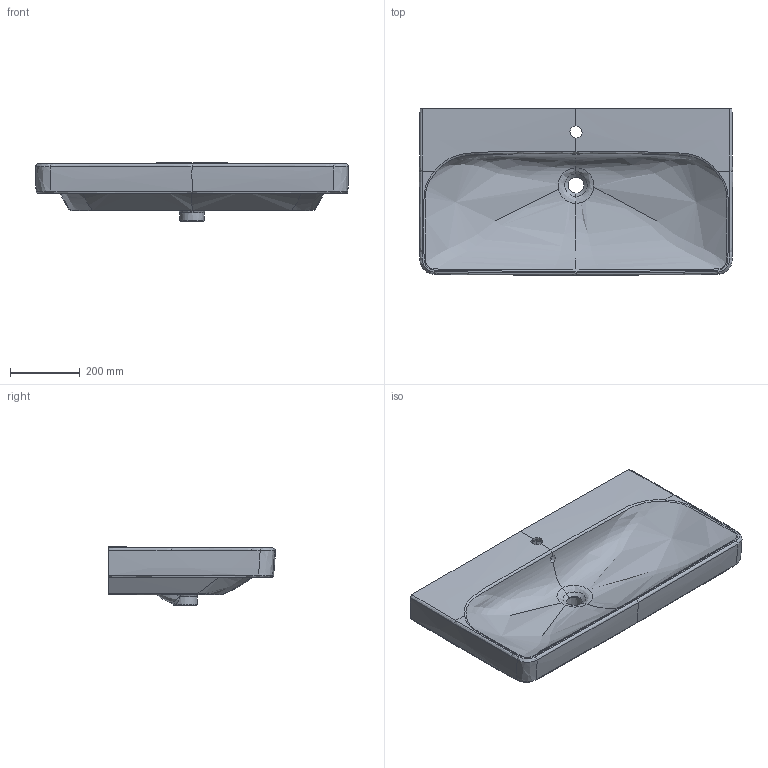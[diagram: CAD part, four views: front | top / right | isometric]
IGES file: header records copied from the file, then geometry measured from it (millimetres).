
Global section: file name: 500251; native system: Autodesk Inventor 2018; preprocessor: unknown; author: JANAN; date: 20200430.091838; units: millimetre
Bounding box: 899.82 x 479.74 x 168 mm (x, y, z)
Volume: 21443318.4 mm3; surface area: 1400683.3 mm2
Topology: 1 solids, 1 shells, 275 faces, 739 edges, 463 vertices
Faces by surface type: bspline 275
